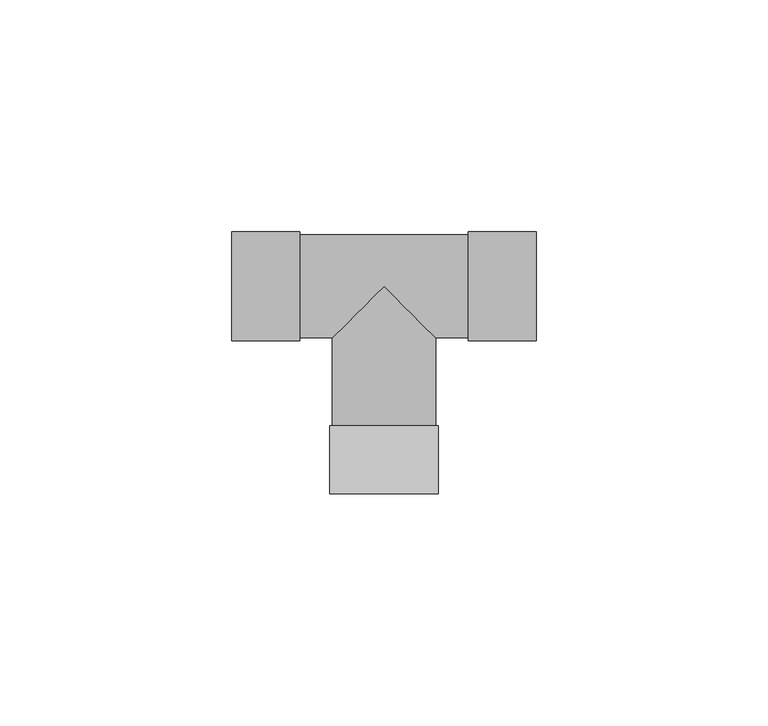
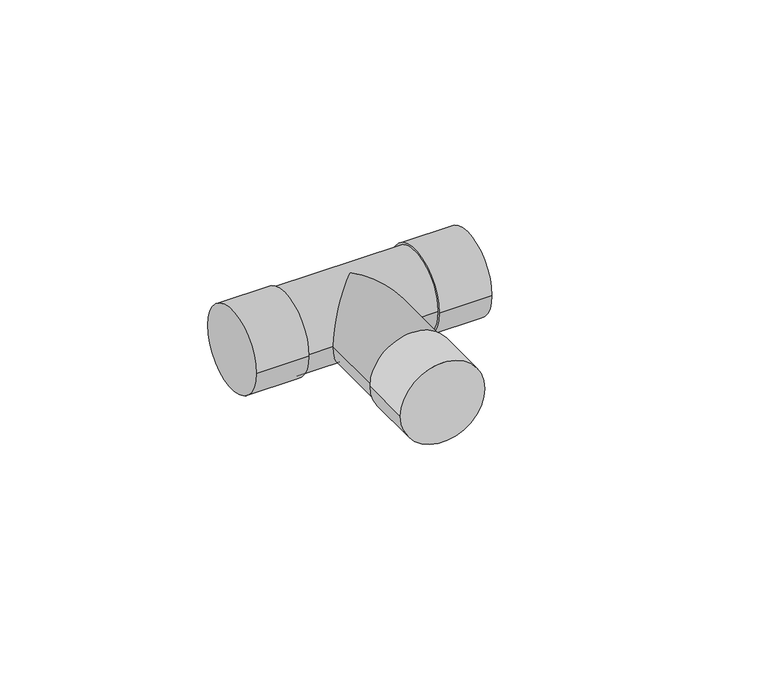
"""IFC4 building model written with IfcOpenShell, lengths in millimetres: pipe fitting geometry, Tê - Soldado - CU : Padrão."""

from ifc_helpers import new_model, si_unit, frame, origin, place, context, project, spatial, circle_curve, ellipse_curve, source, transform, mapped, element, save
from ifc_brep_helpers import plane_surface, cylinder_surface, advanced_brep


def pipe_fitting_240cf9e3(model_context):
    return source(origin(), model_context, "Body", "AdvancedBrep", [
        advanced_brep(
        [(11.7033798, -44.6992911, 0.0), (-11.7010202, -44.6999089, 0.0), (11.702993, -30.0458911, 0.0), (-11.701407, -30.0465089, 0.0), (11.110793, -30.0459068, 0.0), (-11.109207, -30.0464932, 0.0), (-32.7635, -11.7022, 0.0), (-32.7635, 11.7022, 0.0), (-18.1101, -11.7022, 0.0), (-18.1101, 11.7022, 0.0), (-18.1101, -11.11, 0.0), (-18.1101, 11.11, 0.0), (18.1101, 11.11, 0.0), (-11.1097068, -11.11, 0.0), (0.0, 0.0, 11.11), (11.1102932, -11.11, 0.0), (18.1101, -11.11, 0.0), (0.0, 0.0, -11.11), (18.1101, -11.7022, 0.0), (18.1101, 11.7022, 0.0), (32.7635, -11.7022, 0.0), (32.7635, 11.7022, 0.0)],
        [
            (0, 1, circle_curve(frame((0.0011798, -44.6996, 0.0), z_axis=(2.6393812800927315e-05, -0.9999999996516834, 0.0), x_axis=(-0.9999999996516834, -2.6393812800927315e-05, 0.0)), 11.7022)),
            (1, 0, circle_curve(frame((0.0011798, -44.6996, 0.0), z_axis=(2.6393812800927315e-05, -0.9999999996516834, 0.0), x_axis=(-0.9999999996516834, -2.6393812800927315e-05, 0.0)), 11.7022)),
            (2, 3, circle_curve(frame((0.000793, -30.0462, 0.0), z_axis=(-2.6393812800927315e-05, 0.9999999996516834, 0.0), x_axis=(-0.9999999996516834, -2.6393812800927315e-05, 0.0)), 11.7022)),
            (3, 2, circle_curve(frame((0.000793, -30.0462, 0.0), z_axis=(-2.6393812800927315e-05, 0.9999999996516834, 0.0), x_axis=(-0.9999999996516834, -2.6393812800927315e-05, 0.0)), 11.7022)),
            (4, 5, circle_curve(frame((0.000793, -30.0462, 0.0), z_axis=(2.6393812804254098e-05, -0.9999999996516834, 0.0), x_axis=(0.9999999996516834, 2.6393812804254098e-05, 0.0)), 11.11)),
            (5, 4, circle_curve(frame((0.000793, -30.0462, 0.0), z_axis=(2.6393812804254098e-05, -0.9999999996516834, 0.0), x_axis=(0.9999999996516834, 2.6393812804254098e-05, 0.0)), 11.11)),
            (0, 2),
            (3, 1),
            (6, 7, circle_curve(frame((-32.7635, 0.0, 0.0), z_axis=(-1.0, 0.0, 0.0), x_axis=(0.0, 1.0, 0.0)), 11.7022)),
            (7, 6, circle_curve(frame((-32.7635, 0.0, 0.0), z_axis=(-1.0, 0.0, 0.0), x_axis=(0.0, 1.0, 0.0)), 11.7022)),
            (8, 9, circle_curve(frame((-18.1101, 0.0, 0.0), z_axis=(1.0, 0.0, 0.0), x_axis=(0.0, 1.0, 0.0)), 11.7022)),
            (9, 8, circle_curve(frame((-18.1101, 0.0, 0.0), z_axis=(1.0, 0.0, 0.0), x_axis=(0.0, 1.0, 0.0)), 11.7022)),
            (10, 11, circle_curve(frame((-18.1101, 0.0, 0.0), z_axis=(-1.0, 0.0, 0.0), x_axis=(0.0, 1.0, 0.0)), 11.11)),
            (11, 10, circle_curve(frame((-18.1101, 0.0, 0.0), z_axis=(-1.0, 0.0, 0.0), x_axis=(0.0, 1.0, 0.0)), 11.11)),
            (6, 8),
            (9, 7),
            (12, 11),
            (10, 13),
            (13, 14, ellipse_curve(frame((0.0, 0.0, 0.0), z_axis=(-0.7071161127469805, 0.7070974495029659, 0.0), x_axis=(-0.707097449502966, -0.7071161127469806, 0.0)), 15.7117053, 11.11)),
            (14, 15, ellipse_curve(frame((0.0, 0.0, 0.0), z_axis=(0.7070974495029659, 0.7071161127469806, 0.0), x_axis=(-0.7071161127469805, 0.7070974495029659, 0.0)), 15.71212, 11.11)),
            (15, 16),
            (16, 12, circle_curve(frame((18.1101, 0.0, 0.0), z_axis=(-1.0, 0.0, 0.0), x_axis=(0.0, 1.0, 0.0)), 11.11)),
            (12, 16, circle_curve(frame((18.1101, 0.0, 0.0), z_axis=(-1.0, 0.0, 0.0), x_axis=(0.0, 1.0, 0.0)), 11.11)),
            (15, 17, ellipse_curve(frame((0.0, 0.0, 0.0), z_axis=(0.7070974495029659, 0.7071161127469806, 0.0), x_axis=(-0.7071161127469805, 0.7070974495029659, 0.0)), 15.71212, 11.11)),
            (17, 13, ellipse_curve(frame((0.0, 0.0, 0.0), z_axis=(-0.7071161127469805, 0.7070974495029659, 0.0), x_axis=(-0.707097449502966, -0.7071161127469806, 0.0)), 15.7117053, 11.11)),
            (18, 19, circle_curve(frame((18.1101, 0.0, 0.0), z_axis=(-1.0, 0.0, 0.0), x_axis=(0.0, 1.0, 0.0)), 11.7022)),
            (19, 18, circle_curve(frame((18.1101, 0.0, 0.0), z_axis=(-1.0, 0.0, 0.0), x_axis=(0.0, 1.0, 0.0)), 11.7022)),
            (20, 21, circle_curve(frame((32.7635, 0.0, 0.0), z_axis=(1.0, 0.0, 0.0), x_axis=(0.0, 1.0, 0.0)), 11.7022)),
            (21, 20, circle_curve(frame((32.7635, 0.0, 0.0), z_axis=(1.0, 0.0, 0.0), x_axis=(0.0, 1.0, 0.0)), 11.7022)),
            (18, 20),
            (21, 19),
            (4, 15),
            (13, 5),
        ],
        [
            plane_surface(frame((0.0011798, -44.6996, 0.0), z_axis=(2.6393812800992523e-05, -0.9999999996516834, 0.0), x_axis=(0.0, 0.0, 1.0))),
            plane_surface(frame((0.000793, -30.0462, 0.0), z_axis=(-2.6393812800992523e-05, 0.9999999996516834, 0.0), x_axis=(0.0, 0.0, 1.0))),
            cylinder_surface(frame((0.0011798, -44.6996, 0.0), z_axis=(2.6393812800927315e-05, -0.9999999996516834, 0.0), x_axis=(-0.9999999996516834, -2.6393812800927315e-05, 0.0)), 11.7022),
            plane_surface(frame((-32.7635, 0.0, 0.0), z_axis=(-1.0, 0.0, 0.0), x_axis=(0.0, 0.0, 1.0))),
            plane_surface(frame((-18.1101, 0.0, 0.0), z_axis=(1.0, 0.0, 0.0), x_axis=(0.0, 0.0, 1.0))),
            cylinder_surface(frame((-32.7635, 0.0, 0.0), z_axis=(-1.0, 0.0, 0.0), x_axis=(0.0, 1.0, 0.0)), 11.7022),
            cylinder_surface(frame((-18.1101, 0.0, 0.0), z_axis=(-1.0, 0.0, 0.0), x_axis=(0.0, 1.0, 0.0)), 11.11),
            plane_surface(frame((18.1101, 0.0, 0.0), z_axis=(-1.0, 0.0, 0.0), x_axis=(0.0, 0.0, 1.0))),
            plane_surface(frame((32.7635, 0.0, 0.0), z_axis=(1.0, 0.0, 0.0), x_axis=(0.0, 0.0, 1.0))),
            cylinder_surface(frame((18.1101, 0.0, 0.0), z_axis=(-1.0, 0.0, 0.0), x_axis=(0.0, 1.0, 0.0)), 11.7022),
            cylinder_surface(frame((0.0, 0.0, 0.0), z_axis=(-2.6393812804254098e-05, 0.9999999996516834, 0.0), x_axis=(0.9999999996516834, 2.6393812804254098e-05, 0.0)), 11.11),
        ],
        [
            (0, [[1, 2]]),
            (1, [[3, 4], [5, 6]]),
            (2, [[-1, 7, -4, 8]]),
            (2, [[-2, -8, -3, -7]]),
            (3, [[9, 10]]),
            (4, [[11, 12], [13, 14]]),
            (5, [[-9, 15, -12, 16]]),
            (5, [[-10, -16, -11, -15]]),
            (6, [[17, -13, 18, 19, 20, 21, 22]]),
            (6, [[-17, 23, -21, 24, 25, -18, -14]]),
            (7, [[26, 27], [-22, -23]]),
            (8, [[28, 29]]),
            (9, [[-26, 30, -29, 31]]),
            (9, [[-27, -31, -28, -30]]),
            (10, [[32, -20, -19, 33, -5]]),
            (10, [[-32, -6, -33, -25, -24]]),
        ],
    ),
    ])


if __name__ == "__main__":
    model = new_model("IFC4")
    model_context = context("Model", 3, world=origin())
    ifc_project = project(units=[si_unit("LENGTHUNIT", "METRE", prefix="MILLI")], contexts=[model_context])
    site = spatial("IfcSite", under=ifc_project)
    building = spatial("IfcBuilding", under=site)
    placement = place(None, origin())
    pipe_fitting_shape = pipe_fitting_240cf9e3(model_context)
    element("IfcPipeFitting", 1, ObjectType="Tê - Soldado - CU : Padrão", at=placement, inside=building, context=model_context, shape_type="MappedRepresentation", body=[
        mapped(pipe_fitting_shape, transform((0.0, 0.0, 0.0), x_axis=(1.0, 0.0, 0.0), y_axis=(0.0, 1.0, 0.0), z_axis=(0.0, 0.0, 1.0))),
    ])
    save(model, "model.ifc")
